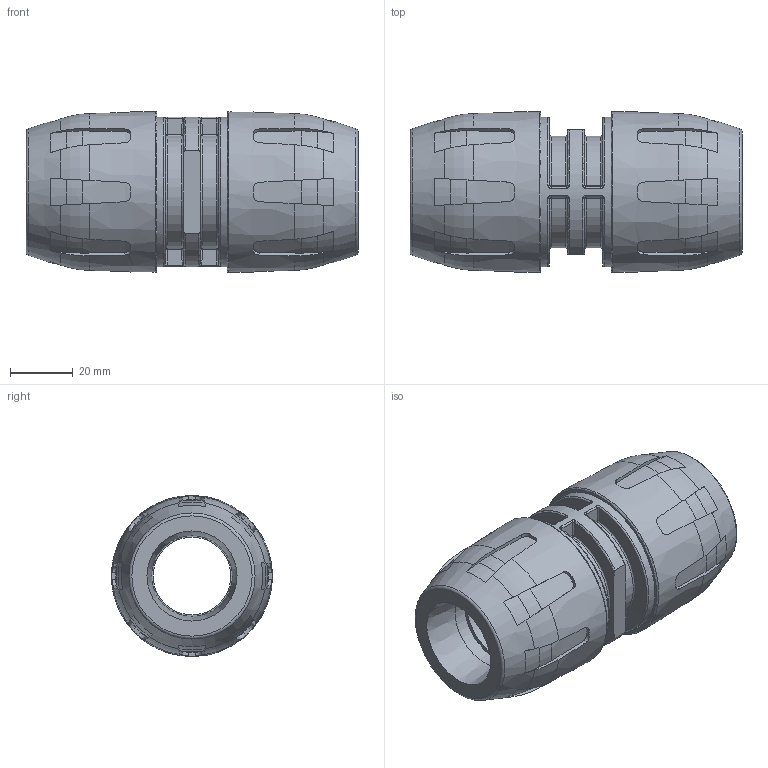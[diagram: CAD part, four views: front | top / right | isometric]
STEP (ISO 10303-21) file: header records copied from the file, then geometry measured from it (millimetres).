
FILE_DESCRIPTION( ( 'STEP AP214' ), '1' );
FILE_NAME( ' ', ' ', ( ' ' ), ( ' ' ), 'PSStep 11.0', 'VISI 17.0', ' ' );
FILE_SCHEMA( ( 'AUTOMOTIVE_DESIGN { 1 0 10303 214 1 1 1 1 }' ) );
Length unit declared in the file: millimetre
Products named in the file (3): 1; 2; 3
Bounding box: 105.56 x 51.16 x 51.18 mm (x, y, z)
Volume: 127761.5 mm3; surface area: 48395.7 mm2
Topology: 3 solids, 3 shells, 508 faces, 1369 edges, 883 vertices
Faces by surface type: plane 222, cone 100, cylinder 70, bspline 64, torus 36, sphere 16
Full cylindrical faces by diameter (mm): 24.7 x1, 25.7 x4, 37.774 x2, 38.2 x2, 39 x2, 41.7 x2, 42.6 x2, 47.6 x1, 48.6 x2
Entity records: 24728 total; most frequent: CARTESIAN_POINT 8863, ORIENTED_EDGE 2604, DIRECTION 2286, EDGE_CURVE 1302, AXIS2_PLACEMENT_3D 997, VERTEX_POINT 862, EDGE_LOOP 576, FACE_OUTER_BOUND 542
